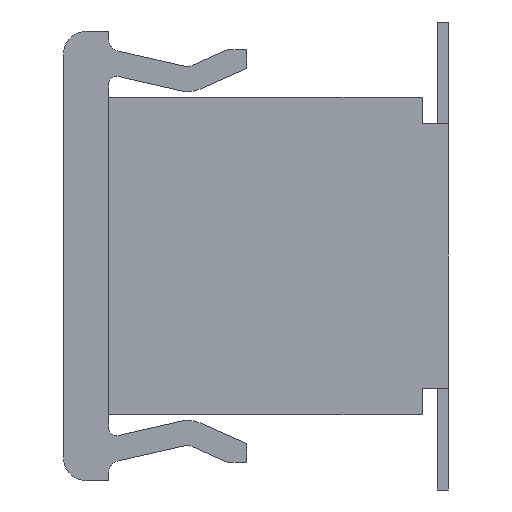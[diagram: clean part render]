
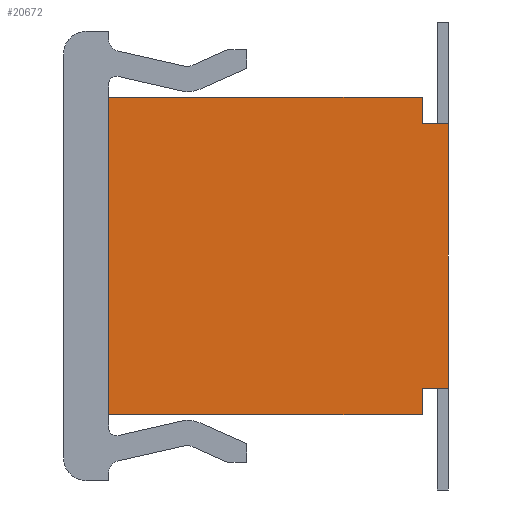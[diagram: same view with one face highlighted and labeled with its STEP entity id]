
A CAD part, left-side view. The second image highlights one B-rep face of the part: STEP entity #20672.
In plain terms, the highlighted planar face has unit normal (-1, 0, 0).
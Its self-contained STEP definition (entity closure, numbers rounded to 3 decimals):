
#1083=DIRECTION('',(0.,-1.,0.));
#1084=VECTOR('',#1083,4.15);
#1085=CARTESIAN_POINT('',(-24.,2.25,-2.1));
#1086=LINE('',#1085,#1084);
#4941=DIRECTION('',(0.,-1.,0.));
#4942=VECTOR('',#4941,4.15);
#4943=CARTESIAN_POINT('',(-24.,2.25,2.1));
#4944=LINE('',#4943,#4942);
#5069=DIRECTION('',(0.,1.,0.));
#5070=VECTOR('',#5069,0.35);
#5071=CARTESIAN_POINT('',(-24.,-2.25,1.75));
#5072=LINE('',#5071,#5070);
#5073=DIRECTION('',(0.,1.,0.));
#5074=VECTOR('',#5073,0.35);
#5075=CARTESIAN_POINT('',(-24.,-2.25,-1.75));
#5076=LINE('',#5075,#5074);
#5077=DIRECTION('',(0.,0.,1.));
#5078=VECTOR('',#5077,0.35);
#5079=CARTESIAN_POINT('',(-24.,-1.9,-2.1));
#5080=LINE('',#5079,#5078);
#5081=DIRECTION('',(0.,0.,1.));
#5082=VECTOR('',#5081,4.2);
#5083=CARTESIAN_POINT('',(-24.,2.25,-2.1));
#5084=LINE('',#5083,#5082);
#5085=DIRECTION('',(0.,0.,-1.));
#5086=VECTOR('',#5085,0.35);
#5087=CARTESIAN_POINT('',(-24.,-1.9,2.1));
#5088=LINE('',#5087,#5086);
#5101=DIRECTION('',(0.,0.,1.));
#5102=VECTOR('',#5101,3.5);
#5103=CARTESIAN_POINT('',(-24.,-2.25,-1.75));
#5104=LINE('',#5103,#5102);
#9957=CARTESIAN_POINT('',(-24.,2.25,-2.1));
#9958=CARTESIAN_POINT('',(-24.,2.25,2.1));
#9959=VERTEX_POINT('',#9957);
#9960=VERTEX_POINT('',#9958);
#10269=CARTESIAN_POINT('',(-24.,-2.25,1.75));
#10270=CARTESIAN_POINT('',(-24.,-1.9,1.75));
#10271=VERTEX_POINT('',#10269);
#10272=VERTEX_POINT('',#10270);
#10273=CARTESIAN_POINT('',(-24.,-1.9,2.1));
#10274=VERTEX_POINT('',#10273);
#10275=CARTESIAN_POINT('',(-24.,-1.9,-2.1));
#10276=CARTESIAN_POINT('',(-24.,-1.9,-1.75));
#10277=VERTEX_POINT('',#10275);
#10278=VERTEX_POINT('',#10276);
#10279=CARTESIAN_POINT('',(-24.,-2.25,-1.75));
#10280=VERTEX_POINT('',#10279);
#20655=CARTESIAN_POINT('',(-24.,2.25,-2.1));
#20656=DIRECTION('',(-1.,0.,0.));
#20657=DIRECTION('',(0.,-1.,0.));
#20658=AXIS2_PLACEMENT_3D('',#20655,#20656,#20657);
#20659=PLANE('',#20658);
#20660=ORIENTED_EDGE('',*,*,#20286,.F.);
#20662=ORIENTED_EDGE('',*,*,#20661,.F.);
#20664=ORIENTED_EDGE('',*,*,#20663,.T.);
#20665=ORIENTED_EDGE('',*,*,#13241,.F.);
#20666=ORIENTED_EDGE('',*,*,#13980,.F.);
#20667=ORIENTED_EDGE('',*,*,#14330,.T.);
#20668=ORIENTED_EDGE('',*,*,#20256,.T.);
#20669=ORIENTED_EDGE('',*,*,#13249,.T.);
#20670=EDGE_LOOP('',(#20660,#20662,#20664,#20665,#20666,#20667,#20668,#20669));
#20671=FACE_OUTER_BOUND('',#20670,.F.);
#20672=ADVANCED_FACE('',(#20671),#20659,.T.);
#13241=EDGE_CURVE('',#10277,#10278,#5080,.T.);
#13249=EDGE_CURVE('',#10274,#10272,#5088,.T.);
#13980=EDGE_CURVE('',#9959,#10277,#1086,.T.);
#14330=EDGE_CURVE('',#9959,#9960,#5084,.T.);
#20256=EDGE_CURVE('',#9960,#10274,#4944,.T.);
#20286=EDGE_CURVE('',#10271,#10272,#5072,.T.);
#20661=EDGE_CURVE('',#10280,#10271,#5104,.T.);
#20663=EDGE_CURVE('',#10280,#10278,#5076,.T.);
